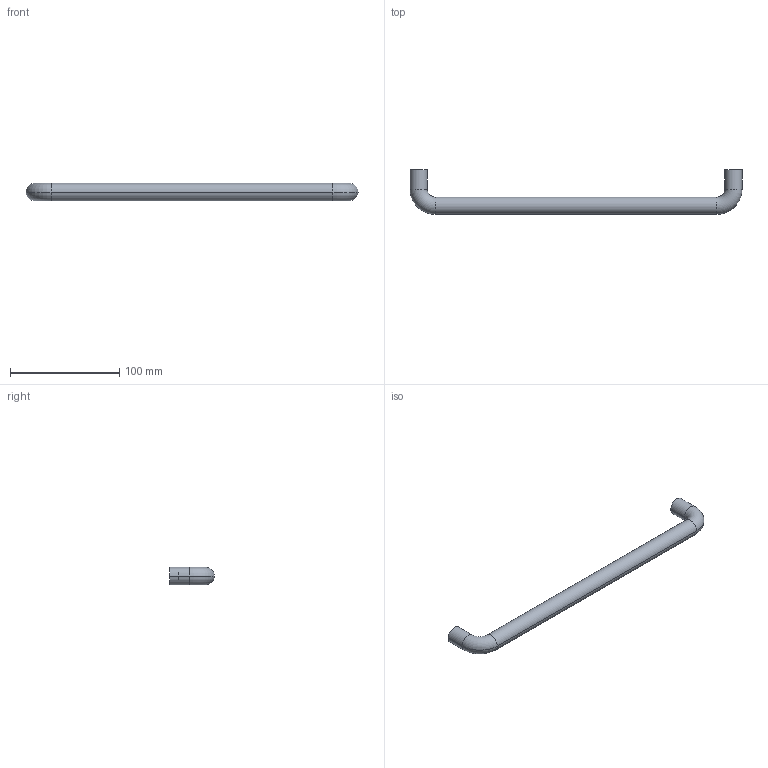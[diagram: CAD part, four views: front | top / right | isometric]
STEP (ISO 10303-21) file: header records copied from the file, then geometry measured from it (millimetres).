
FILE_DESCRIPTION( ( '' ), '1' );
FILE_NAME( 'C:/Documents and Settings/Sachin/Desktop/Sheet 10_1/stp/9113303.stp', '2013-10-22T12:43:10', ( '' ), ( '' ), ' ', ' ', ' ' );
FILE_SCHEMA( ( 'CONFIG_CONTROL_DESIGN' ) );
Length unit declared in the file: millimetre
Products named in the file (1): 1
Bounding box: 303.8 x 40.8 x 15.8 mm (x, y, z)
Volume: 18043.5 mm3; surface area: 31851.3 mm2
Topology: 1 solids, 1 shells, 28 faces, 56 edges, 32 vertices
Faces by surface type: cylinder 16, torus 8, plane 4
Entity records: 780 total; most frequent: DIRECTION 154, CARTESIAN_POINT 117, ORIENTED_EDGE 112, AXIS2_PLACEMENT_3D 69, EDGE_CURVE 56, CIRCLE 40, EDGE_LOOP 32, VERTEX_POINT 32
